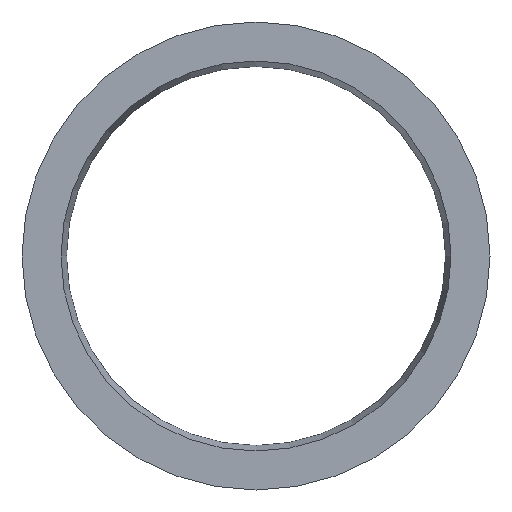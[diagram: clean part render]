
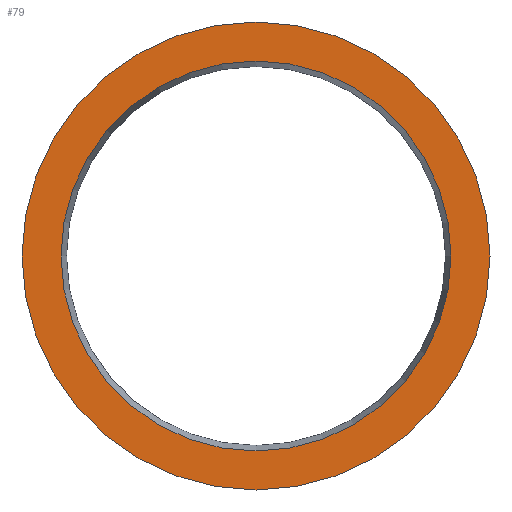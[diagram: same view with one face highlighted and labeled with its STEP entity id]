
A CAD part, front view. The second image highlights one B-rep face of the part: STEP entity #79.
In plain terms, the highlighted planar face has unit normal (0, -1, 0).
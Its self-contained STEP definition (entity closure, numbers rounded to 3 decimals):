
#79 = ADVANCED_FACE( '', ( #94, #95 ), #96, .T. );
#94 = FACE_OUTER_BOUND( '', #112, .T. );
#95 = FACE_BOUND( '', #113, .T. );
#96 = PLANE( '', #114 );
#112 = EDGE_LOOP( '', ( #138 ) );
#113 = EDGE_LOOP( '', ( #139 ) );
#114 = AXIS2_PLACEMENT_3D( '', #140, #141, #142 );
#138 = ORIENTED_EDGE( '', *, *, #153, .T. );
#139 = ORIENTED_EDGE( '', *, *, #152, .F. );
#140 = CARTESIAN_POINT( '', ( 12., 0., 0. ) );
#141 = DIRECTION( '', ( 0., -1., 0. ) );
#142 = DIRECTION( '', ( 0., 0., -1. ) );
#152 = EDGE_CURVE( '', #162, #162, #163, .T. );
#153 = EDGE_CURVE( '', #164, #164, #165, .T. );
#162 = VERTEX_POINT( '', #174 );
#163 = CIRCLE( '', #175, 12. );
#164 = VERTEX_POINT( '', #176 );
#165 = CIRCLE( '', #177, 14.4 );
#174 = CARTESIAN_POINT( '', ( 0., 0., -12. ) );
#175 = AXIS2_PLACEMENT_3D( '', #190, #191, #192 );
#176 = CARTESIAN_POINT( '', ( 0., 0., -14.4 ) );
#177 = AXIS2_PLACEMENT_3D( '', #193, #194, #195 );
#190 = CARTESIAN_POINT( '', ( 0., 0., 0. ) );
#191 = DIRECTION( '', ( 0., -1., 0. ) );
#192 = DIRECTION( '', ( 0., 0., -1. ) );
#193 = CARTESIAN_POINT( '', ( 0., 0., 0. ) );
#194 = DIRECTION( '', ( 0., -1., 0. ) );
#195 = DIRECTION( '', ( 0., 0., -1. ) );
